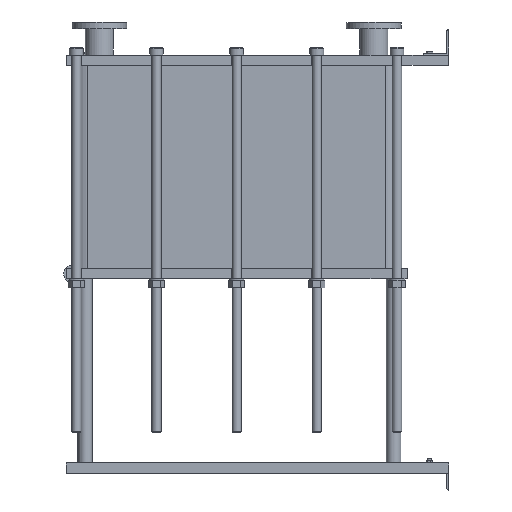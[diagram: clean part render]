
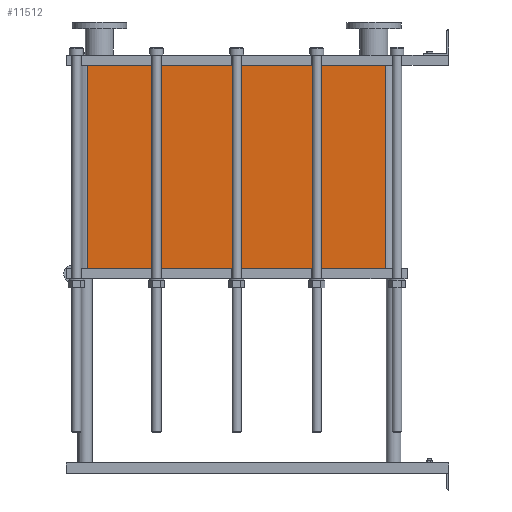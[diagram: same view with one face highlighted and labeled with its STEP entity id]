
A CAD part, left-side view. The second image highlights one B-rep face of the part: STEP entity #11512.
In plain terms, the highlighted planar face has unit normal (-1, 0, 0).
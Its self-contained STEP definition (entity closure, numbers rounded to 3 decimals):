
#1129=LINE('',#23232,#2102);
#1130=LINE('',#23236,#2103);
#1131=LINE('',#23238,#2104);
#1132=LINE('',#23239,#2105);
#2102=VECTOR('',#15887,10.);
#2103=VECTOR('',#15892,10.);
#2104=VECTOR('',#15893,10.);
#2105=VECTOR('',#15894,10.);
#3267=FACE_OUTER_BOUND('',#4093,.T.);
#4093=EDGE_LOOP('',(#10103,#10104,#10105,#10106));
#5642=VERTEX_POINT('',#23229);
#5643=VERTEX_POINT('',#23231);
#5644=VERTEX_POINT('',#23235);
#5645=VERTEX_POINT('',#23237);
#7159=EDGE_CURVE('',#5643,#5642,#1129,.T.);
#7161=EDGE_CURVE('',#5642,#5644,#1130,.T.);
#7162=EDGE_CURVE('',#5645,#5644,#1131,.T.);
#7163=EDGE_CURVE('',#5645,#5643,#1132,.T.);
#10103=ORIENTED_EDGE('',*,*,#7161,.T.);
#10104=ORIENTED_EDGE('',*,*,#7162,.F.);
#10105=ORIENTED_EDGE('',*,*,#7163,.T.);
#10106=ORIENTED_EDGE('',*,*,#7159,.T.);
#10857=PLANE('',#12751);
#11512=ADVANCED_FACE('',(#3267),#10857,.T.);
#12751=AXIS2_PLACEMENT_3D('',#23234,#15890,#15891);
#15887=DIRECTION('',(0.,0.,-1.));
#15890=DIRECTION('center_axis',(-1.,0.,0.));
#15891=DIRECTION('ref_axis',(0.,1.,0.));
#15892=DIRECTION('',(0.,-1.,0.));
#15893=DIRECTION('',(0.,0.,-1.));
#15894=DIRECTION('',(0.,1.,0.));
#23229=CARTESIAN_POINT('',(-200.,1414.,-796.95));
#23231=CARTESIAN_POINT('',(-200.,1414.,0.));
#23232=CARTESIAN_POINT('',(-200.,1414.,0.));
#23234=CARTESIAN_POINT('Origin',(-200.,248.,0.));
#23235=CARTESIAN_POINT('',(-200.,248.,-796.95));
#23236=CARTESIAN_POINT('',(-200.,539.5,-796.95));
#23237=CARTESIAN_POINT('',(-200.,248.,0.));
#23238=CARTESIAN_POINT('',(-200.,248.,0.));
#23239=CARTESIAN_POINT('',(-200.,248.,0.));
